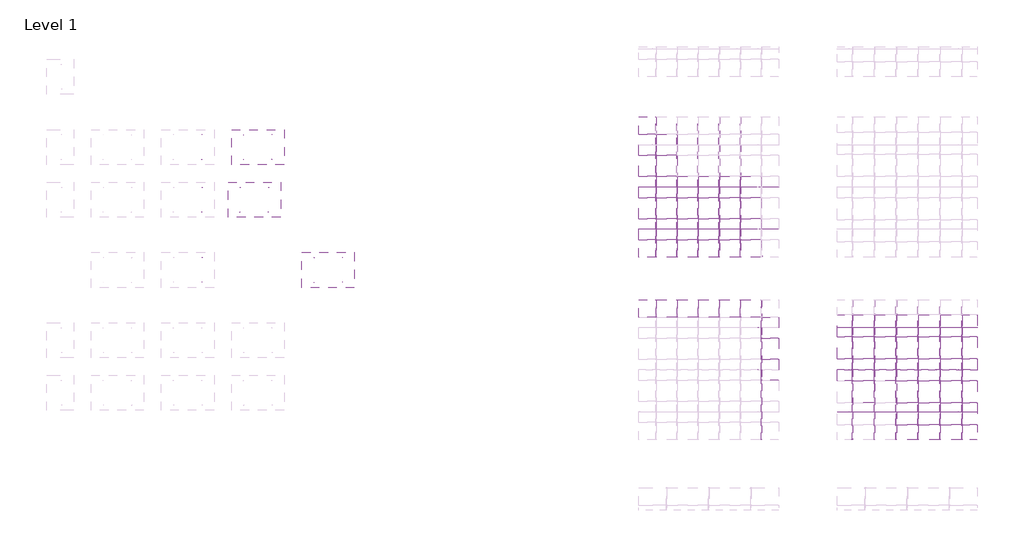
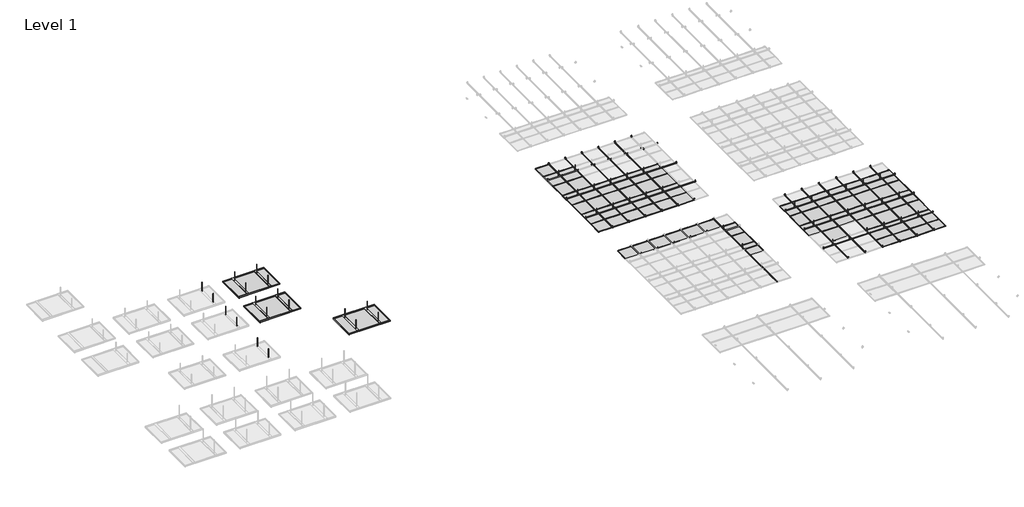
# One storey, part 21 of 32: 141 proxies.
"""IFC4 building model written with IfcOpenShell, lengths in millimetres."""

from ifc_helpers import new_model, si_unit, origin, place, context, project, spatial, transform, mapped, element, save
from components import generic_models_84546a59, generic_models_ee162b96, generic_models_38625c8c, generic_models_cebb11cf, generic_models_39815823, generic_models_aa8f36d8, generic_models_26324e2b, generic_models_eb6e0cd6, generic_models_ee13603d, generic_models_0cb75665, generic_models_6d21b951, generic_models_de900850, generic_models_85b4ffa8, generic_models_e5a4eb21

model = new_model("IFC4")

# Units and contexts
model_context = context("Model", 3, world=origin())
ifc_project = project(units=[si_unit("LENGTHUNIT", "METRE", prefix="MILLI")], contexts=[model_context])

# Site, building, storey
site = spatial("IfcSite", under=ifc_project)
building = spatial("IfcBuilding", under=site)
storey = spatial("IfcBuildingStorey", under=building, Name="Level 1", Elevation=0.0)

# Proxies
placement = place(None, origin())
generic_models_shape = generic_models_84546a59(model_context)
element("IfcBuildingElementProxy", 1, Name="durlum_threaded_rod_M6 : durlum_threaded_rod_M6", ObjectType="durlum_threaded_rod_M6 : durlum_threaded_rod_M6", at=placement, inside=storey, context=model_context, shape_type="MappedRepresentation", body=[
    mapped(generic_models_shape, transform((-15984.1736977, 15716.936751, 3835.0), x_axis=(1.0, 0.0, 0.0), y_axis=(0.0, 1.0, 0.0), z_axis=(0.0, 0.0, 1.0))),
])
element("IfcBuildingElementProxy", 2, Name="durlum_threaded_rod_M6 : durlum_threaded_rod_M6", ObjectType="durlum_threaded_rod_M6 : durlum_threaded_rod_M6", at=placement, inside=storey, context=model_context, shape_type="MappedRepresentation", body=[
    mapped(generic_models_shape, transform((-17784.1736977, 18522.4548964, 3835.0), x_axis=(1.0, 0.0, 0.0), y_axis=(0.0, 1.0, 0.0), z_axis=(0.0, 0.0, 1.0))),
])
element("IfcBuildingElementProxy", 3, Name="durlum_threaded_rod_M6 : durlum_threaded_rod_M6", ObjectType="durlum_threaded_rod_M6 : durlum_threaded_rod_M6", at=placement, inside=storey, context=model_context, shape_type="MappedRepresentation", body=[
    mapped(generic_models_shape, transform((-18984.1736977, 18522.4548964, 3835.0), x_axis=(1.0, 0.0, 0.0), y_axis=(0.0, 1.0, 0.0), z_axis=(0.0, 0.0, 1.0))),
])
element("IfcBuildingElementProxy", 4, Name="durlum_threaded_rod_M6 : durlum_threaded_rod_M6", ObjectType="durlum_threaded_rod_M6 : durlum_threaded_rod_M6", at=placement, inside=storey, context=model_context, shape_type="MappedRepresentation", body=[
    mapped(generic_models_shape, transform((-16584.1736977, 18522.4548964, 3835.0), x_axis=(1.0, 0.0, 0.0), y_axis=(0.0, 1.0, 0.0), z_axis=(0.0, 0.0, 1.0))),
])
element("IfcBuildingElementProxy", 5, Name="durlum_threaded_rod_M6 : durlum_threaded_rod_M6", ObjectType="durlum_threaded_rod_M6 : durlum_threaded_rod_M6", at=placement, inside=storey, context=model_context, shape_type="MappedRepresentation", body=[
    mapped(generic_models_shape, transform((-17184.1736977, 18522.4548964, 3835.0), x_axis=(1.0, 0.0, 0.0), y_axis=(0.0, 1.0, 0.0), z_axis=(0.0, 0.0, 1.0))),
])
element("IfcBuildingElementProxy", 6, Name="durlum_threaded_rod_M6 : durlum_threaded_rod_M6", ObjectType="durlum_threaded_rod_M6 : durlum_threaded_rod_M6", at=placement, inside=storey, context=model_context, shape_type="MappedRepresentation", body=[
    mapped(generic_models_shape, transform((-18984.1736977, 20922.4548964, 3835.0), x_axis=(1.0, 0.0, 0.0), y_axis=(0.0, 1.0, 0.0), z_axis=(0.0, 0.0, 1.0))),
])
element("IfcBuildingElementProxy", 7, Name="durlum_threaded_rod_M6 : durlum_threaded_rod_M6", ObjectType="durlum_threaded_rod_M6 : durlum_threaded_rod_M6", at=placement, inside=storey, context=model_context, shape_type="MappedRepresentation", body=[
    mapped(generic_models_shape, transform((-18384.1736977, 20922.4548964, 3835.0), x_axis=(1.0, 0.0, 0.0), y_axis=(0.0, 1.0, 0.0), z_axis=(0.0, 0.0, 1.0))),
])
element("IfcBuildingElementProxy", 8, Name="durlum_threaded_rod_M6 : durlum_threaded_rod_M6", ObjectType="durlum_threaded_rod_M6 : durlum_threaded_rod_M6", at=placement, inside=storey, context=model_context, shape_type="MappedRepresentation", body=[
    mapped(generic_models_shape, transform((-18384.1736977, 18522.4548964, 3835.0), x_axis=(1.0, 0.0, 0.0), y_axis=(0.0, 1.0, 0.0), z_axis=(0.0, 0.0, 1.0))),
])
element("IfcBuildingElementProxy", 9, Name="durlum_threaded_rod_M6 : durlum_threaded_rod_M6", ObjectType="durlum_threaded_rod_M6 : durlum_threaded_rod_M6", at=placement, inside=storey, context=model_context, shape_type="MappedRepresentation", body=[
    mapped(generic_models_shape, transform((-18384.1736977, 19722.4548964, 3835.0), x_axis=(1.0, 0.0, 0.0), y_axis=(0.0, 1.0, 0.0), z_axis=(0.0, 0.0, 1.0))),
])
element("IfcBuildingElementProxy", 10, Name="durlum_threaded_rod_M6 : durlum_threaded_rod_M6", ObjectType="durlum_threaded_rod_M6 : durlum_threaded_rod_M6", at=placement, inside=storey, context=model_context, shape_type="MappedRepresentation", body=[
    mapped(generic_models_shape, transform((-17784.1736977, 19722.4548964, 3835.0), x_axis=(1.0, 0.0, 0.0), y_axis=(0.0, 1.0, 0.0), z_axis=(0.0, 0.0, 1.0))),
])
element("IfcBuildingElementProxy", 11, Name="durlum_threaded_rod_M6 : durlum_threaded_rod_M6", ObjectType="durlum_threaded_rod_M6 : durlum_threaded_rod_M6", at=placement, inside=storey, context=model_context, shape_type="MappedRepresentation", body=[
    mapped(generic_models_shape, transform((-18984.1736977, 19722.4548964, 3835.0), x_axis=(1.0, 0.0, 0.0), y_axis=(0.0, 1.0, 0.0), z_axis=(0.0, 0.0, 1.0))),
])
element("IfcBuildingElementProxy", 12, Name="durlum_threaded_rod_M6 : durlum_threaded_rod_M6", ObjectType="durlum_threaded_rod_M6 : durlum_threaded_rod_M6", at=placement, inside=storey, context=model_context, shape_type="MappedRepresentation", body=[
    mapped(generic_models_shape, transform((-16584.1736977, 19722.4548964, 3835.0), x_axis=(1.0, 0.0, 0.0), y_axis=(0.0, 1.0, 0.0), z_axis=(0.0, 0.0, 1.0))),
])
element("IfcBuildingElementProxy", 13, Name="durlum_threaded_rod_M6 : durlum_threaded_rod_M6", ObjectType="durlum_threaded_rod_M6 : durlum_threaded_rod_M6", at=placement, inside=storey, context=model_context, shape_type="MappedRepresentation", body=[
    mapped(generic_models_shape, transform((-17184.1736977, 19722.4548964, 3835.0), x_axis=(1.0, 0.0, 0.0), y_axis=(0.0, 1.0, 0.0), z_axis=(0.0, 0.0, 1.0))),
])
element("IfcBuildingElementProxy", 14, Name="durlum_threaded_rod_M6 : durlum_threaded_rod_M6", ObjectType="durlum_threaded_rod_M6 : durlum_threaded_rod_M6", at=placement, inside=storey, context=model_context, shape_type="MappedRepresentation", body=[
    mapped(generic_models_shape, transform((-10267.5747393, 13316.936751, 3835.0), x_axis=(1.0, 0.0, 0.0), y_axis=(0.0, 1.0, 0.0), z_axis=(0.0, 0.0, 1.0))),
])
element("IfcBuildingElementProxy", 15, Name="durlum_threaded_rod_M6 : durlum_threaded_rod_M6", ObjectType="durlum_threaded_rod_M6 : durlum_threaded_rod_M6", at=placement, inside=storey, context=model_context, shape_type="MappedRepresentation", body=[
    mapped(generic_models_shape, transform((-10892.5747393, 13316.936751, 3835.0), x_axis=(1.0, 0.0, 0.0), y_axis=(0.0, 1.0, 0.0), z_axis=(0.0, 0.0, 1.0))),
])
element("IfcBuildingElementProxy", 16, Name="durlum_threaded_rod_M6 : durlum_threaded_rod_M6", ObjectType="durlum_threaded_rod_M6 : durlum_threaded_rod_M6", at=placement, inside=storey, context=model_context, shape_type="MappedRepresentation", body=[
    mapped(generic_models_shape, transform((-11517.5747393, 13316.936751, 3835.0), x_axis=(1.0, 0.0, 0.0), y_axis=(0.0, 1.0, 0.0), z_axis=(0.0, 0.0, 1.0))),
])
element("IfcBuildingElementProxy", 17, Name="durlum_threaded_rod_M6 : durlum_threaded_rod_M6", ObjectType="durlum_threaded_rod_M6 : durlum_threaded_rod_M6", at=placement, inside=storey, context=model_context, shape_type="MappedRepresentation", body=[
    mapped(generic_models_shape, transform((-10267.5747393, 15716.936751, 3835.0), x_axis=(1.0, 0.0, 0.0), y_axis=(0.0, 1.0, 0.0), z_axis=(0.0, 0.0, 1.0))),
])
element("IfcBuildingElementProxy", 18, Name="durlum_threaded_rod_M6 : durlum_threaded_rod_M6", ObjectType="durlum_threaded_rod_M6 : durlum_threaded_rod_M6", at=placement, inside=storey, context=model_context, shape_type="MappedRepresentation", body=[
    mapped(generic_models_shape, transform((-13392.5747393, 15716.936751, 3835.0), x_axis=(1.0, 0.0, 0.0), y_axis=(0.0, 1.0, 0.0), z_axis=(0.0, 0.0, 1.0))),
])
element("IfcBuildingElementProxy", 19, Name="durlum_threaded_rod_M6 : durlum_threaded_rod_M6", ObjectType="durlum_threaded_rod_M6 : durlum_threaded_rod_M6", at=placement, inside=storey, context=model_context, shape_type="MappedRepresentation", body=[
    mapped(generic_models_shape, transform((-10892.5747393, 15716.936751, 3835.0), x_axis=(1.0, 0.0, 0.0), y_axis=(0.0, 1.0, 0.0), z_axis=(0.0, 0.0, 1.0))),
])
element("IfcBuildingElementProxy", 20, Name="durlum_threaded_rod_M6 : durlum_threaded_rod_M6", ObjectType="durlum_threaded_rod_M6 : durlum_threaded_rod_M6", at=placement, inside=storey, context=model_context, shape_type="MappedRepresentation", body=[
    mapped(generic_models_shape, transform((-11517.5747393, 15716.936751, 3835.0), x_axis=(1.0, 0.0, 0.0), y_axis=(0.0, 1.0, 0.0), z_axis=(0.0, 0.0, 1.0))),
])
element("IfcBuildingElementProxy", 21, Name="durlum_threaded_rod_M6 : durlum_threaded_rod_M6", ObjectType="durlum_threaded_rod_M6 : durlum_threaded_rod_M6", at=placement, inside=storey, context=model_context, shape_type="MappedRepresentation", body=[
    mapped(generic_models_shape, transform((-15984.1736977, 14516.936751, 3835.0), x_axis=(1.0, 0.0, 0.0), y_axis=(0.0, 1.0, 0.0), z_axis=(0.0, 0.0, 1.0))),
])
element("IfcBuildingElementProxy", 22, Name="durlum_threaded_rod_M6 : durlum_threaded_rod_M6", ObjectType="durlum_threaded_rod_M6 : durlum_threaded_rod_M6", at=placement, inside=storey, context=model_context, shape_type="MappedRepresentation", body=[
    mapped(generic_models_shape, transform((-12142.5747393, 15716.936751, 3835.0), x_axis=(1.0, 0.0, 0.0), y_axis=(0.0, 1.0, 0.0), z_axis=(0.0, 0.0, 1.0))),
])
element("IfcBuildingElementProxy", 23, Name="durlum_threaded_rod_M6 : durlum_threaded_rod_M6", ObjectType="durlum_threaded_rod_M6 : durlum_threaded_rod_M6", at=placement, inside=storey, context=model_context, shape_type="MappedRepresentation", body=[
    mapped(generic_models_shape, transform((-12767.5747393, 15716.936751, 3835.0), x_axis=(1.0, 0.0, 0.0), y_axis=(0.0, 1.0, 0.0), z_axis=(0.0, 0.0, 1.0))),
])
element("IfcBuildingElementProxy", 24, Name="durlum_threaded_rod_M6 : durlum_threaded_rod_M6", ObjectType="durlum_threaded_rod_M6 : durlum_threaded_rod_M6", at=placement, inside=storey, context=model_context, shape_type="MappedRepresentation", body=[
    mapped(generic_models_shape, transform((-12142.5747393, 14516.936751, 3835.0), x_axis=(1.0, 0.0, 0.0), y_axis=(0.0, 1.0, 0.0), z_axis=(0.0, 0.0, 1.0))),
])
element("IfcBuildingElementProxy", 25, Name="durlum_threaded_rod_M6 : durlum_threaded_rod_M6", ObjectType="durlum_threaded_rod_M6 : durlum_threaded_rod_M6", at=placement, inside=storey, context=model_context, shape_type="MappedRepresentation", body=[
    mapped(generic_models_shape, transform((-12767.5747393, 14516.936751, 3835.0), x_axis=(1.0, 0.0, 0.0), y_axis=(0.0, 1.0, 0.0), z_axis=(0.0, 0.0, 1.0))),
])
element("IfcBuildingElementProxy", 26, Name="durlum_threaded_rod_M6 : durlum_threaded_rod_M6", ObjectType="durlum_threaded_rod_M6 : durlum_threaded_rod_M6", at=placement, inside=storey, context=model_context, shape_type="MappedRepresentation", body=[
    mapped(generic_models_shape, transform((-10267.5747393, 14516.936751, 3835.0), x_axis=(1.0, 0.0, 0.0), y_axis=(0.0, 1.0, 0.0), z_axis=(0.0, 0.0, 1.0))),
])
element("IfcBuildingElementProxy", 27, Name="durlum_threaded_rod_M6 : durlum_threaded_rod_M6", ObjectType="durlum_threaded_rod_M6 : durlum_threaded_rod_M6", at=placement, inside=storey, context=model_context, shape_type="MappedRepresentation", body=[
    mapped(generic_models_shape, transform((-13392.5747393, 14516.936751, 3835.0), x_axis=(1.0, 0.0, 0.0), y_axis=(0.0, 1.0, 0.0), z_axis=(0.0, 0.0, 1.0))),
])
element("IfcBuildingElementProxy", 28, Name="durlum_threaded_rod_M6 : durlum_threaded_rod_M6", ObjectType="durlum_threaded_rod_M6 : durlum_threaded_rod_M6", at=placement, inside=storey, context=model_context, shape_type="MappedRepresentation", body=[
    mapped(generic_models_shape, transform((-10892.5747393, 14516.936751, 3835.0), x_axis=(1.0, 0.0, 0.0), y_axis=(0.0, 1.0, 0.0), z_axis=(0.0, 0.0, 1.0))),
])
element("IfcBuildingElementProxy", 29, Name="durlum_threaded_rod_M6 : durlum_threaded_rod_M6", ObjectType="durlum_threaded_rod_M6 : durlum_threaded_rod_M6", at=placement, inside=storey, context=model_context, shape_type="MappedRepresentation", body=[
    mapped(generic_models_shape, transform((-11517.5747393, 14516.936751, 3835.0), x_axis=(1.0, 0.0, 0.0), y_axis=(0.0, 1.0, 0.0), z_axis=(0.0, 0.0, 1.0))),
])
generic_models_2_shape = generic_models_ee162b96(model_context)
element("IfcBuildingElementProxy", 30, Name="durlum_threaded_rod_M6 : durlum_threaded_rod_M6", ObjectType="durlum_threaded_rod_M6 : durlum_threaded_rod_M6", at=placement, inside=storey, context=model_context, shape_type="MappedRepresentation", body=[
    mapped(generic_models_2_shape, transform((-31821.531136, 20508.7392516, 3672.1013669), x_axis=(0.0, -1.0, 0.0), y_axis=(1.0, 0.0, 0.0), z_axis=(0.0, 0.0, 1.0))),
])
element("IfcBuildingElementProxy", 31, Name="durlum_threaded_rod_M6 : durlum_threaded_rod_M6", ObjectType="durlum_threaded_rod_M6 : durlum_threaded_rod_M6", at=placement, inside=storey, context=model_context, shape_type="MappedRepresentation", body=[
    mapped(generic_models_2_shape, transform((-31821.531136, 21208.7392516, 3672.1013669), x_axis=(0.0, -1.0, 0.0), y_axis=(1.0, 0.0, 0.0), z_axis=(0.0, 0.0, 1.0))),
])
element("IfcBuildingElementProxy", 32, Name="durlum_threaded_rod_M6 : durlum_threaded_rod_M6", ObjectType="durlum_threaded_rod_M6 : durlum_threaded_rod_M6", at=placement, inside=storey, context=model_context, shape_type="MappedRepresentation", body=[
    mapped(generic_models_2_shape, transform((-29821.531136, 20508.7392516, 3672.1013669), x_axis=(0.0, -1.0, 0.0), y_axis=(1.0, 0.0, 0.0), z_axis=(0.0, 0.0, 1.0))),
])
element("IfcBuildingElementProxy", 33, Name="durlum_threaded_rod_M6 : durlum_threaded_rod_M6", ObjectType="durlum_threaded_rod_M6 : durlum_threaded_rod_M6", at=placement, inside=storey, context=model_context, shape_type="MappedRepresentation", body=[
    mapped(generic_models_2_shape, transform((-29821.531136, 21208.7392516, 3672.1013669), x_axis=(0.0, -1.0, 0.0), y_axis=(1.0, 0.0, 0.0), z_axis=(0.0, 0.0, 1.0))),
])
element("IfcBuildingElementProxy", 34, Name="durlum_threaded_rod_M6 : durlum_threaded_rod_M6", ObjectType="durlum_threaded_rod_M6 : durlum_threaded_rod_M6", at=placement, inside=storey, context=model_context, shape_type="MappedRepresentation", body=[
    mapped(generic_models_2_shape, transform((-30631.531136, 20508.7392516, 3672.1013669), x_axis=(0.0, -1.0, 0.0), y_axis=(1.0, 0.0, 0.0), z_axis=(0.0, 0.0, 1.0))),
])
element("IfcBuildingElementProxy", 35, Name="durlum_threaded_rod_M6 : durlum_threaded_rod_M6", ObjectType="durlum_threaded_rod_M6 : durlum_threaded_rod_M6", at=placement, inside=storey, context=model_context, shape_type="MappedRepresentation", body=[
    mapped(generic_models_2_shape, transform((-30631.531136, 21208.7392516, 3672.1013669), x_axis=(0.0, -1.0, 0.0), y_axis=(1.0, 0.0, 0.0), z_axis=(0.0, 0.0, 1.0))),
])
element("IfcBuildingElementProxy", 36, Name="durlum_threaded_rod_M6 : durlum_threaded_rod_M6", ObjectType="durlum_threaded_rod_M6 : durlum_threaded_rod_M6", at=placement, inside=storey, context=model_context, shape_type="MappedRepresentation", body=[
    mapped(generic_models_2_shape, transform((-31821.531136, 19008.7392516, 3672.1013669), x_axis=(0.0, -1.0, 0.0), y_axis=(1.0, 0.0, 0.0), z_axis=(0.0, 0.0, 1.0))),
])
element("IfcBuildingElementProxy", 37, Name="durlum_threaded_rod_M6 : durlum_threaded_rod_M6", ObjectType="durlum_threaded_rod_M6 : durlum_threaded_rod_M6", at=placement, inside=storey, context=model_context, shape_type="MappedRepresentation", body=[
    mapped(generic_models_2_shape, transform((-31821.531136, 19708.7392516, 3672.1013669), x_axis=(0.0, -1.0, 0.0), y_axis=(1.0, 0.0, 0.0), z_axis=(0.0, 0.0, 1.0))),
])
element("IfcBuildingElementProxy", 38, Name="durlum_threaded_rod_M6 : durlum_threaded_rod_M6", ObjectType="durlum_threaded_rod_M6 : durlum_threaded_rod_M6", at=placement, inside=storey, context=model_context, shape_type="MappedRepresentation", body=[
    mapped(generic_models_2_shape, transform((-29921.531136, 19008.7392516, 3672.1013669), x_axis=(0.0, -1.0, 0.0), y_axis=(1.0, 0.0, 0.0), z_axis=(0.0, 0.0, 1.0))),
])
element("IfcBuildingElementProxy", 39, Name="durlum_threaded_rod_M6 : durlum_threaded_rod_M6", ObjectType="durlum_threaded_rod_M6 : durlum_threaded_rod_M6", at=placement, inside=storey, context=model_context, shape_type="MappedRepresentation", body=[
    mapped(generic_models_2_shape, transform((-29921.531136, 19708.7392516, 3672.1013669), x_axis=(0.0, -1.0, 0.0), y_axis=(1.0, 0.0, 0.0), z_axis=(0.0, 0.0, 1.0))),
])
element("IfcBuildingElementProxy", 40, Name="durlum_threaded_rod_M6 : durlum_threaded_rod_M6", ObjectType="durlum_threaded_rod_M6 : durlum_threaded_rod_M6", at=placement, inside=storey, context=model_context, shape_type="MappedRepresentation", body=[
    mapped(generic_models_2_shape, transform((-30731.531136, 19008.7392516, 3672.1013669), x_axis=(0.0, -1.0, 0.0), y_axis=(1.0, 0.0, 0.0), z_axis=(0.0, 0.0, 1.0))),
])
element("IfcBuildingElementProxy", 41, Name="durlum_threaded_rod_M6 : durlum_threaded_rod_M6", ObjectType="durlum_threaded_rod_M6 : durlum_threaded_rod_M6", at=placement, inside=storey, context=model_context, shape_type="MappedRepresentation", body=[
    mapped(generic_models_2_shape, transform((-30731.531136, 19708.7392516, 3672.1013669), x_axis=(0.0, -1.0, 0.0), y_axis=(1.0, 0.0, 0.0), z_axis=(0.0, 0.0, 1.0))),
])
element("IfcBuildingElementProxy", 42, Name="durlum_threaded_rod_M6 : durlum_threaded_rod_M6", ObjectType="durlum_threaded_rod_M6 : durlum_threaded_rod_M6", at=placement, inside=storey, context=model_context, shape_type="MappedRepresentation", body=[
    mapped(generic_models_2_shape, transform((-27821.531136, 17008.7392516, 3672.1013669), x_axis=(0.0, -1.0, 0.0), y_axis=(1.0, 0.0, 0.0), z_axis=(0.0, 0.0, 1.0))),
])
element("IfcBuildingElementProxy", 43, Name="durlum_threaded_rod_M6 : durlum_threaded_rod_M6", ObjectType="durlum_threaded_rod_M6 : durlum_threaded_rod_M6", at=placement, inside=storey, context=model_context, shape_type="MappedRepresentation", body=[
    mapped(generic_models_2_shape, transform((-27821.531136, 17708.7392516, 3672.1013669), x_axis=(0.0, -1.0, 0.0), y_axis=(1.0, 0.0, 0.0), z_axis=(0.0, 0.0, 1.0))),
])
element("IfcBuildingElementProxy", 44, Name="durlum_threaded_rod_M6 : durlum_threaded_rod_M6", ObjectType="durlum_threaded_rod_M6 : durlum_threaded_rod_M6", at=placement, inside=storey, context=model_context, shape_type="MappedRepresentation", body=[
    mapped(generic_models_2_shape, transform((-28631.531136, 17008.7392516, 3672.1013669), x_axis=(0.0, -1.0, 0.0), y_axis=(1.0, 0.0, 0.0), z_axis=(0.0, 0.0, 1.0))),
])
element("IfcBuildingElementProxy", 45, Name="durlum_threaded_rod_M6 : durlum_threaded_rod_M6", ObjectType="durlum_threaded_rod_M6 : durlum_threaded_rod_M6", at=placement, inside=storey, context=model_context, shape_type="MappedRepresentation", body=[
    mapped(generic_models_2_shape, transform((-28631.531136, 17708.7392516, 3672.1013669), x_axis=(0.0, -1.0, 0.0), y_axis=(1.0, 0.0, 0.0), z_axis=(0.0, 0.0, 1.0))),
])
element("IfcBuildingElementProxy", 46, Name="durlum_threaded_rod_M6 : durlum_threaded_rod_M6", ObjectType="durlum_threaded_rod_M6 : durlum_threaded_rod_M6", at=placement, inside=storey, context=model_context, shape_type="MappedRepresentation", body=[
    mapped(generic_models_2_shape, transform((-31821.531136, 17008.7392516, 3672.1013669), x_axis=(0.0, -1.0, 0.0), y_axis=(1.0, 0.0, 0.0), z_axis=(0.0, 0.0, 1.0))),
])
element("IfcBuildingElementProxy", 47, Name="durlum_threaded_rod_M6 : durlum_threaded_rod_M6", ObjectType="durlum_threaded_rod_M6 : durlum_threaded_rod_M6", at=placement, inside=storey, context=model_context, shape_type="MappedRepresentation", body=[
    mapped(generic_models_2_shape, transform((-31821.531136, 17708.7392516, 3672.1013669), x_axis=(0.0, -1.0, 0.0), y_axis=(1.0, 0.0, 0.0), z_axis=(0.0, 0.0, 1.0))),
])
generic_models_3_shape = generic_models_38625c8c(model_context)
element("IfcBuildingElementProxy", 48, Name="durlum_U1000 : durlum_U1000", ObjectType="durlum_U1000 : durlum_U1000", at=placement, inside=storey, context=model_context, shape_type="MappedRepresentation", body=[
    mapped(generic_models_3_shape, transform((-15884.1736977, 14516.936751, 3712.8202962), x_axis=(0.0, 1.0, 0.0), y_axis=(-1.0, 0.0, 0.0), z_axis=(0.0, 0.0, 1.0))),
])
element("IfcBuildingElementProxy", 49, Name="durlum_U1000 : durlum_U1000", ObjectType="durlum_U1000 : durlum_U1000", at=placement, inside=storey, context=model_context, shape_type="MappedRepresentation", body=[
    mapped(generic_models_3_shape, transform((-17684.1736977, 19722.4548964, 3712.8202962), x_axis=(0.0, 1.0, 0.0), y_axis=(-1.0, 0.0, 0.0), z_axis=(0.0, 0.0, 1.0))),
])
element("IfcBuildingElementProxy", 50, Name="durlum_U1000 : durlum_U1000", ObjectType="durlum_U1000 : durlum_U1000", at=placement, inside=storey, context=model_context, shape_type="MappedRepresentation", body=[
    mapped(generic_models_3_shape, transform((-17384.1736977, 18522.4548964, 3754.5054063), x_axis=(1.0, 0.0, 0.0), y_axis=(0.0, 1.0, 0.0), z_axis=(0.0, 0.0, 1.0))),
])
element("IfcBuildingElementProxy", 51, Name="durlum_U1000 : durlum_U1000", ObjectType="durlum_U1000 : durlum_U1000", at=placement, inside=storey, context=model_context, shape_type="MappedRepresentation", body=[
    mapped(generic_models_3_shape, transform((-17084.1736977, 19722.4548964, 3712.8202962), x_axis=(0.0, 1.0, 0.0), y_axis=(-1.0, 0.0, 0.0), z_axis=(0.0, 0.0, 1.0))),
])
element("IfcBuildingElementProxy", 52, Name="durlum_U1000 : durlum_U1000", ObjectType="durlum_U1000 : durlum_U1000", at=placement, inside=storey, context=model_context, shape_type="MappedRepresentation", body=[
    mapped(generic_models_3_shape, transform((-16484.1736977, 19722.4548964, 3712.8202962), x_axis=(0.0, 1.0, 0.0), y_axis=(-1.0, 0.0, 0.0), z_axis=(0.0, 0.0, 1.0))),
])
element("IfcBuildingElementProxy", 53, Name="durlum_U1000 : durlum_U1000", ObjectType="durlum_U1000 : durlum_U1000", at=placement, inside=storey, context=model_context, shape_type="MappedRepresentation", body=[
    mapped(generic_models_3_shape, transform((-18884.1736977, 19722.4548964, 3712.8202962), x_axis=(0.0, 1.0, 0.0), y_axis=(-1.0, 0.0, 0.0), z_axis=(0.0, 0.0, 1.0))),
])
element("IfcBuildingElementProxy", 54, Name="durlum_U1000 : durlum_U1000", ObjectType="durlum_U1000 : durlum_U1000", at=placement, inside=storey, context=model_context, shape_type="MappedRepresentation", body=[
    mapped(generic_models_3_shape, transform((-17384.1736977, 19722.4548964, 3754.5054063), x_axis=(1.0, 0.0, 0.0), y_axis=(0.0, 1.0, 0.0), z_axis=(0.0, 0.0, 1.0))),
])
element("IfcBuildingElementProxy", 55, Name="durlum_U1000 : durlum_U1000", ObjectType="durlum_U1000 : durlum_U1000", at=placement, inside=storey, context=model_context, shape_type="MappedRepresentation", body=[
    mapped(generic_models_3_shape, transform((-18284.1736977, 19722.4548964, 3712.8202962), x_axis=(0.0, 1.0, 0.0), y_axis=(-1.0, 0.0, 0.0), z_axis=(0.0, 0.0, 1.0))),
])
element("IfcBuildingElementProxy", 56, Name="durlum_U1000 : durlum_U1000", ObjectType="durlum_U1000 : durlum_U1000", at=placement, inside=storey, context=model_context, shape_type="MappedRepresentation", body=[
    mapped(generic_models_3_shape, transform((-11730.0747393, 13316.936751, 3754.5054063), x_axis=(1.0, 0.0, 0.0), y_axis=(0.0, 1.0, 0.0), z_axis=(0.0, 0.0, 1.0))),
])
element("IfcBuildingElementProxy", 57, Name="durlum_U1000 : durlum_U1000", ObjectType="durlum_U1000 : durlum_U1000", at=placement, inside=storey, context=model_context, shape_type="MappedRepresentation", body=[
    mapped(generic_models_3_shape, transform((-11730.0747393, 15716.936751, 3754.5054063), x_axis=(1.0, 0.0, 0.0), y_axis=(0.0, 1.0, 0.0), z_axis=(0.0, 0.0, 1.0))),
])
element("IfcBuildingElementProxy", 58, Name="durlum_U1000 : durlum_U1000", ObjectType="durlum_U1000 : durlum_U1000", at=placement, inside=storey, context=model_context, shape_type="MappedRepresentation", body=[
    mapped(generic_models_3_shape, transform((-11417.5747393, 14516.936751, 3712.8202962), x_axis=(0.0, 1.0, 0.0), y_axis=(-1.0, 0.0, 0.0), z_axis=(0.0, 0.0, 1.0))),
])
element("IfcBuildingElementProxy", 59, Name="durlum_U1000 : durlum_U1000", ObjectType="durlum_U1000 : durlum_U1000", at=placement, inside=storey, context=model_context, shape_type="MappedRepresentation", body=[
    mapped(generic_models_3_shape, transform((-10792.5747393, 14516.936751, 3712.8202962), x_axis=(0.0, 1.0, 0.0), y_axis=(-1.0, 0.0, 0.0), z_axis=(0.0, 0.0, 1.0))),
])
element("IfcBuildingElementProxy", 60, Name="durlum_U1000 : durlum_U1000", ObjectType="durlum_U1000 : durlum_U1000", at=placement, inside=storey, context=model_context, shape_type="MappedRepresentation", body=[
    mapped(generic_models_3_shape, transform((-13292.5747393, 14516.936751, 3712.8202962), x_axis=(0.0, 1.0, 0.0), y_axis=(-1.0, 0.0, 0.0), z_axis=(0.0, 0.0, 1.0))),
])
element("IfcBuildingElementProxy", 61, Name="durlum_U1000 : durlum_U1000", ObjectType="durlum_U1000 : durlum_U1000", at=placement, inside=storey, context=model_context, shape_type="MappedRepresentation", body=[
    mapped(generic_models_3_shape, transform((-10167.5747393, 14516.936751, 3712.8202962), x_axis=(0.0, 1.0, 0.0), y_axis=(-1.0, 0.0, 0.0), z_axis=(0.0, 0.0, 1.0))),
])
element("IfcBuildingElementProxy", 62, Name="durlum_U1000 : durlum_U1000", ObjectType="durlum_U1000 : durlum_U1000", at=placement, inside=storey, context=model_context, shape_type="MappedRepresentation", body=[
    mapped(generic_models_3_shape, transform((-11730.0747393, 14516.936751, 3754.5054063), x_axis=(1.0, 0.0, 0.0), y_axis=(0.0, 1.0, 0.0), z_axis=(0.0, 0.0, 1.0))),
])
element("IfcBuildingElementProxy", 63, Name="durlum_U1000 : durlum_U1000", ObjectType="durlum_U1000 : durlum_U1000", at=placement, inside=storey, context=model_context, shape_type="MappedRepresentation", body=[
    mapped(generic_models_3_shape, transform((-12667.5747393, 14516.936751, 3712.8202962), x_axis=(0.0, 1.0, 0.0), y_axis=(-1.0, 0.0, 0.0), z_axis=(0.0, 0.0, 1.0))),
])
element("IfcBuildingElementProxy", 64, Name="durlum_U1000 : durlum_U1000", ObjectType="durlum_U1000 : durlum_U1000", at=placement, inside=storey, context=model_context, shape_type="MappedRepresentation", body=[
    mapped(generic_models_3_shape, transform((-12042.5747393, 14516.936751, 3712.8202962), x_axis=(0.0, 1.0, 0.0), y_axis=(-1.0, 0.0, 0.0), z_axis=(0.0, 0.0, 1.0))),
])
generic_models_4_shape = generic_models_cebb11cf(model_context)
element("IfcBuildingElementProxy", 65, Name="durlum_S1_panel : durlum_S1_panel", ObjectType="durlum_S1_panel : durlum_S1_panel", at=placement, inside=storey, context=model_context, shape_type="MappedRepresentation", body=[
    mapped(generic_models_4_shape, transform((-17384.1736977, 19722.4548964, 3700.0), x_axis=(1.0, 0.0, 0.0), y_axis=(0.0, 1.0, 0.0), z_axis=(0.0, 0.0, 1.0))),
])
element("IfcBuildingElementProxy", 66, Name="durlum_S1_panel : durlum_S1_panel", ObjectType="durlum_S1_panel : durlum_S1_panel", at=placement, inside=storey, context=model_context, shape_type="MappedRepresentation", body=[
    mapped(generic_models_4_shape, transform((-17984.1736977, 19722.4548964, 3700.0), x_axis=(1.0, 0.0, 0.0), y_axis=(0.0, 1.0, 0.0), z_axis=(0.0, 0.0, 1.0))),
])
element("IfcBuildingElementProxy", 67, Name="durlum_S1_panel : durlum_S1_panel", ObjectType="durlum_S1_panel : durlum_S1_panel", at=placement, inside=storey, context=model_context, shape_type="MappedRepresentation", body=[
    mapped(generic_models_4_shape, transform((-18584.1736977, 19722.4548964, 3700.0), x_axis=(1.0, 0.0, 0.0), y_axis=(0.0, 1.0, 0.0), z_axis=(0.0, 0.0, 1.0))),
])
element("IfcBuildingElementProxy", 68, Name="durlum_S1_panel : durlum_S1_panel", ObjectType="durlum_S1_panel : durlum_S1_panel", at=placement, inside=storey, context=model_context, shape_type="MappedRepresentation", body=[
    mapped(generic_models_4_shape, transform((-16184.1736977, 19722.4548964, 3700.0), x_axis=(1.0, 0.0, 0.0), y_axis=(0.0, 1.0, 0.0), z_axis=(0.0, 0.0, 1.0))),
])
element("IfcBuildingElementProxy", 69, Name="durlum_S1_panel : durlum_S1_panel", ObjectType="durlum_S1_panel : durlum_S1_panel", at=placement, inside=storey, context=model_context, shape_type="MappedRepresentation", body=[
    mapped(generic_models_4_shape, transform((-17384.1736977, 18522.4548964, 3700.0), x_axis=(1.0, 0.0, 0.0), y_axis=(0.0, 1.0, 0.0), z_axis=(0.0, 0.0, 1.0))),
])
element("IfcBuildingElementProxy", 70, Name="durlum_S1_panel : durlum_S1_panel", ObjectType="durlum_S1_panel : durlum_S1_panel", at=placement, inside=storey, context=model_context, shape_type="MappedRepresentation", body=[
    mapped(generic_models_4_shape, transform((-17984.1736977, 18522.4548964, 3700.0), x_axis=(1.0, 0.0, 0.0), y_axis=(0.0, 1.0, 0.0), z_axis=(0.0, 0.0, 1.0))),
])
element("IfcBuildingElementProxy", 71, Name="durlum_S1_panel : durlum_S1_panel", ObjectType="durlum_S1_panel : durlum_S1_panel", at=placement, inside=storey, context=model_context, shape_type="MappedRepresentation", body=[
    mapped(generic_models_4_shape, transform((-18584.1736977, 20322.4548964, 3700.0), x_axis=(1.0, 0.0, 0.0), y_axis=(0.0, 1.0, 0.0), z_axis=(0.0, 0.0, 1.0))),
])
element("IfcBuildingElementProxy", 72, Name="durlum_S1_panel : durlum_S1_panel", ObjectType="durlum_S1_panel : durlum_S1_panel", at=placement, inside=storey, context=model_context, shape_type="MappedRepresentation", body=[
    mapped(generic_models_4_shape, transform((-18584.1736977, 18522.4548964, 3700.0), x_axis=(1.0, 0.0, 0.0), y_axis=(0.0, 1.0, 0.0), z_axis=(0.0, 0.0, 1.0))),
])
element("IfcBuildingElementProxy", 73, Name="durlum_S1_panel : durlum_S1_panel", ObjectType="durlum_S1_panel : durlum_S1_panel", at=placement, inside=storey, context=model_context, shape_type="MappedRepresentation", body=[
    mapped(generic_models_4_shape, transform((-16184.1736977, 18522.4548964, 3700.0), x_axis=(1.0, 0.0, 0.0), y_axis=(0.0, 1.0, 0.0), z_axis=(0.0, 0.0, 1.0))),
])
element("IfcBuildingElementProxy", 74, Name="durlum_S1_panel : durlum_S1_panel", ObjectType="durlum_S1_panel : durlum_S1_panel", at=placement, inside=storey, context=model_context, shape_type="MappedRepresentation", body=[
    mapped(generic_models_4_shape, transform((-18584.1736977, 20922.4548964, 3700.0), x_axis=(1.0, 0.0, 0.0), y_axis=(0.0, 1.0, 0.0), z_axis=(0.0, 0.0, 1.0))),
])
element("IfcBuildingElementProxy", 75, Name="durlum_S1_panel : durlum_S1_panel", ObjectType="durlum_S1_panel : durlum_S1_panel", at=placement, inside=storey, context=model_context, shape_type="MappedRepresentation", body=[
    mapped(generic_models_4_shape, transform((-16784.1736977, 18522.4548964, 3700.0), x_axis=(1.0, 0.0, 0.0), y_axis=(0.0, 1.0, 0.0), z_axis=(0.0, 0.0, 1.0))),
])
element("IfcBuildingElementProxy", 76, Name="durlum_S1_panel : durlum_S1_panel", ObjectType="durlum_S1_panel : durlum_S1_panel", at=placement, inside=storey, context=model_context, shape_type="MappedRepresentation", body=[
    mapped(generic_models_4_shape, transform((-16784.1736977, 19722.4548964, 3700.0), x_axis=(1.0, 0.0, 0.0), y_axis=(0.0, 1.0, 0.0), z_axis=(0.0, 0.0, 1.0))),
])
element("IfcBuildingElementProxy", 77, Name="durlum_S1_panel : durlum_S1_panel", ObjectType="durlum_S1_panel : durlum_S1_panel", at=placement, inside=storey, context=model_context, shape_type="MappedRepresentation", body=[
    mapped(generic_models_4_shape, transform((-16784.1736977, 19122.4548964, 3700.0), x_axis=(1.0, 0.0, 0.0), y_axis=(0.0, 1.0, 0.0), z_axis=(0.0, 0.0, 1.0))),
])
element("IfcBuildingElementProxy", 78, Name="durlum_S1_panel : durlum_S1_panel", ObjectType="durlum_S1_panel : durlum_S1_panel", at=placement, inside=storey, context=model_context, shape_type="MappedRepresentation", body=[
    mapped(generic_models_4_shape, transform((-17384.1736977, 19122.4548964, 3700.0), x_axis=(1.0, 0.0, 0.0), y_axis=(0.0, 1.0, 0.0), z_axis=(0.0, 0.0, 1.0))),
])
element("IfcBuildingElementProxy", 79, Name="durlum_S1_panel : durlum_S1_panel", ObjectType="durlum_S1_panel : durlum_S1_panel", at=placement, inside=storey, context=model_context, shape_type="MappedRepresentation", body=[
    mapped(generic_models_4_shape, transform((-17984.1736977, 19122.4548964, 3700.0), x_axis=(1.0, 0.0, 0.0), y_axis=(0.0, 1.0, 0.0), z_axis=(0.0, 0.0, 1.0))),
])
element("IfcBuildingElementProxy", 80, Name="durlum_S1_panel : durlum_S1_panel", ObjectType="durlum_S1_panel : durlum_S1_panel", at=placement, inside=storey, context=model_context, shape_type="MappedRepresentation", body=[
    mapped(generic_models_4_shape, transform((-18584.1736977, 19122.4548964, 3700.0), x_axis=(1.0, 0.0, 0.0), y_axis=(0.0, 1.0, 0.0), z_axis=(0.0, 0.0, 1.0))),
])
element("IfcBuildingElementProxy", 81, Name="durlum_S1_panel : durlum_S1_panel", ObjectType="durlum_S1_panel : durlum_S1_panel", at=placement, inside=storey, context=model_context, shape_type="MappedRepresentation", body=[
    mapped(generic_models_4_shape, transform((-16184.1736977, 19122.4548964, 3700.0), x_axis=(1.0, 0.0, 0.0), y_axis=(0.0, 1.0, 0.0), z_axis=(0.0, 0.0, 1.0))),
])
generic_models_5_shape = generic_models_39815823(model_context)
element("IfcBuildingElementProxy", 82, Name="durlum_S1_panel : durlum_S1_panel", ObjectType="durlum_S1_panel : durlum_S1_panel", at=placement, inside=storey, context=model_context, shape_type="MappedRepresentation", body=[
    mapped(generic_models_5_shape, transform((-12355.0747393, 15141.936751, 3700.0), x_axis=(1.0, 0.0, 0.0), y_axis=(0.0, 1.0, 0.0), z_axis=(0.0, 0.0, 1.0))),
])
element("IfcBuildingElementProxy", 83, Name="durlum_S1_panel : durlum_S1_panel", ObjectType="durlum_S1_panel : durlum_S1_panel", at=placement, inside=storey, context=model_context, shape_type="MappedRepresentation", body=[
    mapped(generic_models_5_shape, transform((-12355.0747393, 15766.936751, 3700.0), x_axis=(1.0, 0.0, 0.0), y_axis=(0.0, 1.0, 0.0), z_axis=(0.0, 0.0, 1.0))),
])
element("IfcBuildingElementProxy", 84, Name="durlum_S1_panel : durlum_S1_panel", ObjectType="durlum_S1_panel : durlum_S1_panel", at=placement, inside=storey, context=model_context, shape_type="MappedRepresentation", body=[
    mapped(generic_models_5_shape, transform((-12980.0747393, 15141.936751, 3700.0), x_axis=(1.0, 0.0, 0.0), y_axis=(0.0, 1.0, 0.0), z_axis=(0.0, 0.0, 1.0))),
])
element("IfcBuildingElementProxy", 85, Name="durlum_S1_panel : durlum_S1_panel", ObjectType="durlum_S1_panel : durlum_S1_panel", at=placement, inside=storey, context=model_context, shape_type="MappedRepresentation", body=[
    mapped(generic_models_5_shape, transform((-10480.0747393, 15141.936751, 3700.0), x_axis=(1.0, 0.0, 0.0), y_axis=(0.0, 1.0, 0.0), z_axis=(0.0, 0.0, 1.0))),
])
element("IfcBuildingElementProxy", 86, Name="durlum_S1_panel : durlum_S1_panel", ObjectType="durlum_S1_panel : durlum_S1_panel", at=placement, inside=storey, context=model_context, shape_type="MappedRepresentation", body=[
    mapped(generic_models_5_shape, transform((-10480.0747393, 13266.936751, 3700.0), x_axis=(1.0, 0.0, 0.0), y_axis=(0.0, 1.0, 0.0), z_axis=(0.0, 0.0, 1.0))),
])
element("IfcBuildingElementProxy", 87, Name="durlum_S1_panel : durlum_S1_panel", ObjectType="durlum_S1_panel : durlum_S1_panel", at=placement, inside=storey, context=model_context, shape_type="MappedRepresentation", body=[
    mapped(generic_models_5_shape, transform((-12980.0747393, 15766.936751, 3700.0), x_axis=(1.0, 0.0, 0.0), y_axis=(0.0, 1.0, 0.0), z_axis=(0.0, 0.0, 1.0))),
])
element("IfcBuildingElementProxy", 88, Name="durlum_S1_panel : durlum_S1_panel", ObjectType="durlum_S1_panel : durlum_S1_panel", at=placement, inside=storey, context=model_context, shape_type="MappedRepresentation", body=[
    mapped(generic_models_5_shape, transform((-10480.0747393, 15766.936751, 3700.0), x_axis=(1.0, 0.0, 0.0), y_axis=(0.0, 1.0, 0.0), z_axis=(0.0, 0.0, 1.0))),
])
element("IfcBuildingElementProxy", 89, Name="durlum_S1_panel : durlum_S1_panel", ObjectType="durlum_S1_panel : durlum_S1_panel", at=placement, inside=storey, context=model_context, shape_type="MappedRepresentation", body=[
    mapped(generic_models_5_shape, transform((-11730.0747393, 13266.936751, 3700.0), x_axis=(1.0, 0.0, 0.0), y_axis=(0.0, 1.0, 0.0), z_axis=(0.0, 0.0, 1.0))),
])
element("IfcBuildingElementProxy", 90, Name="durlum_S1_panel : durlum_S1_panel", ObjectType="durlum_S1_panel : durlum_S1_panel", at=placement, inside=storey, context=model_context, shape_type="MappedRepresentation", body=[
    mapped(generic_models_5_shape, transform((-11105.0747393, 13266.936751, 3700.0), x_axis=(1.0, 0.0, 0.0), y_axis=(0.0, 1.0, 0.0), z_axis=(0.0, 0.0, 1.0))),
])
element("IfcBuildingElementProxy", 91, Name="durlum_S1_panel : durlum_S1_panel", ObjectType="durlum_S1_panel : durlum_S1_panel", at=placement, inside=storey, context=model_context, shape_type="MappedRepresentation", body=[
    mapped(generic_models_5_shape, transform((-11730.0747393, 15766.936751, 3700.0), x_axis=(1.0, 0.0, 0.0), y_axis=(0.0, 1.0, 0.0), z_axis=(0.0, 0.0, 1.0))),
])
element("IfcBuildingElementProxy", 92, Name="durlum_S1_panel : durlum_S1_panel", ObjectType="durlum_S1_panel : durlum_S1_panel", at=placement, inside=storey, context=model_context, shape_type="MappedRepresentation", body=[
    mapped(generic_models_5_shape, transform((-11105.0747393, 15766.936751, 3700.0), x_axis=(1.0, 0.0, 0.0), y_axis=(0.0, 1.0, 0.0), z_axis=(0.0, 0.0, 1.0))),
])
element("IfcBuildingElementProxy", 93, Name="durlum_S1_panel : durlum_S1_panel", ObjectType="durlum_S1_panel : durlum_S1_panel", at=placement, inside=storey, context=model_context, shape_type="MappedRepresentation", body=[
    mapped(generic_models_5_shape, transform((-11730.0747393, 15141.936751, 3700.0), x_axis=(1.0, 0.0, 0.0), y_axis=(0.0, 1.0, 0.0), z_axis=(0.0, 0.0, 1.0))),
])
element("IfcBuildingElementProxy", 94, Name="durlum_S1_panel : durlum_S1_panel", ObjectType="durlum_S1_panel : durlum_S1_panel", at=placement, inside=storey, context=model_context, shape_type="MappedRepresentation", body=[
    mapped(generic_models_5_shape, transform((-11105.0747393, 15141.936751, 3700.0), x_axis=(1.0, 0.0, 0.0), y_axis=(0.0, 1.0, 0.0), z_axis=(0.0, 0.0, 1.0))),
])
element("IfcBuildingElementProxy", 95, Name="durlum_S1_panel : durlum_S1_panel", ObjectType="durlum_S1_panel : durlum_S1_panel", at=placement, inside=storey, context=model_context, shape_type="MappedRepresentation", body=[
    mapped(generic_models_5_shape, transform((-11730.0747393, 13891.936751, 3700.0), x_axis=(1.0, 0.0, 0.0), y_axis=(0.0, 1.0, 0.0), z_axis=(0.0, 0.0, 1.0))),
])
element("IfcBuildingElementProxy", 96, Name="durlum_S1_panel : durlum_S1_panel", ObjectType="durlum_S1_panel : durlum_S1_panel", at=placement, inside=storey, context=model_context, shape_type="MappedRepresentation", body=[
    mapped(generic_models_5_shape, transform((-11105.0747393, 13891.936751, 3700.0), x_axis=(1.0, 0.0, 0.0), y_axis=(0.0, 1.0, 0.0), z_axis=(0.0, 0.0, 1.0))),
])
element("IfcBuildingElementProxy", 97, Name="durlum_S1_panel : durlum_S1_panel", ObjectType="durlum_S1_panel : durlum_S1_panel", at=placement, inside=storey, context=model_context, shape_type="MappedRepresentation", body=[
    mapped(generic_models_5_shape, transform((-12980.0747393, 13891.936751, 3700.0), x_axis=(1.0, 0.0, 0.0), y_axis=(0.0, 1.0, 0.0), z_axis=(0.0, 0.0, 1.0))),
])
element("IfcBuildingElementProxy", 98, Name="durlum_S1_panel : durlum_S1_panel", ObjectType="durlum_S1_panel : durlum_S1_panel", at=placement, inside=storey, context=model_context, shape_type="MappedRepresentation", body=[
    mapped(generic_models_5_shape, transform((-10480.0747393, 13891.936751, 3700.0), x_axis=(1.0, 0.0, 0.0), y_axis=(0.0, 1.0, 0.0), z_axis=(0.0, 0.0, 1.0))),
])
element("IfcBuildingElementProxy", 99, Name="durlum_S1_panel : durlum_S1_panel", ObjectType="durlum_S1_panel : durlum_S1_panel", at=placement, inside=storey, context=model_context, shape_type="MappedRepresentation", body=[
    mapped(generic_models_5_shape, transform((-11730.0747393, 14516.936751, 3700.0), x_axis=(1.0, 0.0, 0.0), y_axis=(0.0, 1.0, 0.0), z_axis=(0.0, 0.0, 1.0))),
])
element("IfcBuildingElementProxy", 100, Name="durlum_S1_panel : durlum_S1_panel", ObjectType="durlum_S1_panel : durlum_S1_panel", at=placement, inside=storey, context=model_context, shape_type="MappedRepresentation", body=[
    mapped(generic_models_5_shape, transform((-11105.0747393, 14516.936751, 3700.0), x_axis=(1.0, 0.0, 0.0), y_axis=(0.0, 1.0, 0.0), z_axis=(0.0, 0.0, 1.0))),
])
element("IfcBuildingElementProxy", 101, Name="durlum_S1_panel : durlum_S1_panel", ObjectType="durlum_S1_panel : durlum_S1_panel", at=placement, inside=storey, context=model_context, shape_type="MappedRepresentation", body=[
    mapped(generic_models_5_shape, transform((-12355.0747393, 14516.936751, 3700.0), x_axis=(1.0, 0.0, 0.0), y_axis=(0.0, 1.0, 0.0), z_axis=(0.0, 0.0, 1.0))),
])
element("IfcBuildingElementProxy", 102, Name="durlum_S1_panel : durlum_S1_panel", ObjectType="durlum_S1_panel : durlum_S1_panel", at=placement, inside=storey, context=model_context, shape_type="MappedRepresentation", body=[
    mapped(generic_models_5_shape, transform((-12980.0747393, 14516.936751, 3700.0), x_axis=(1.0, 0.0, 0.0), y_axis=(0.0, 1.0, 0.0), z_axis=(0.0, 0.0, 1.0))),
])
element("IfcBuildingElementProxy", 103, Name="durlum_S1_panel : durlum_S1_panel", ObjectType="durlum_S1_panel : durlum_S1_panel", at=placement, inside=storey, context=model_context, shape_type="MappedRepresentation", body=[
    mapped(generic_models_5_shape, transform((-10480.0747393, 14516.936751, 3700.0), x_axis=(1.0, 0.0, 0.0), y_axis=(0.0, 1.0, 0.0), z_axis=(0.0, 0.0, 1.0))),
])
generic_models_6_shape = generic_models_aa8f36d8(model_context)
element("IfcBuildingElementProxy", 104, Name="durlum_S1_panel : durlum_S1_panel_wall_length_cut", ObjectType="durlum_S1_panel : durlum_S1_panel_wall_length_cut", at=placement, inside=storey, context=model_context, shape_type="MappedRepresentation", body=[
    mapped(generic_models_6_shape, transform((-13511.3247393, 15141.936751, 3700.0), x_axis=(1.0, 0.0, 0.0), y_axis=(0.0, 1.0, 0.0), z_axis=(0.0, 0.0, 1.0))),
])
element("IfcBuildingElementProxy", 105, Name="durlum_S1_panel : durlum_S1_panel_wall_length_cut", ObjectType="durlum_S1_panel : durlum_S1_panel_wall_length_cut", at=placement, inside=storey, context=model_context, shape_type="MappedRepresentation", body=[
    mapped(generic_models_6_shape, transform((-9948.8247393, 15141.936751, 3700.0), x_axis=(1.0, 0.0, 0.0), y_axis=(0.0, 1.0, 0.0), z_axis=(0.0, 0.0, 1.0))),
])
element("IfcBuildingElementProxy", 106, Name="durlum_S1_panel : durlum_S1_panel_wall_length_cut", ObjectType="durlum_S1_panel : durlum_S1_panel_wall_length_cut", at=placement, inside=storey, context=model_context, shape_type="MappedRepresentation", body=[
    mapped(generic_models_6_shape, transform((-9948.8247393, 13266.936751, 3700.0), x_axis=(1.0, 0.0, 0.0), y_axis=(0.0, 1.0, 0.0), z_axis=(0.0, 0.0, 1.0))),
])
element("IfcBuildingElementProxy", 107, Name="durlum_S1_panel : durlum_S1_panel_wall_length_cut", ObjectType="durlum_S1_panel : durlum_S1_panel_wall_length_cut", at=placement, inside=storey, context=model_context, shape_type="MappedRepresentation", body=[
    mapped(generic_models_6_shape, transform((-9948.8247393, 15766.936751, 3700.0), x_axis=(1.0, 0.0, 0.0), y_axis=(0.0, 1.0, 0.0), z_axis=(0.0, 0.0, 1.0))),
])
element("IfcBuildingElementProxy", 108, Name="durlum_S1_panel : durlum_S1_panel_wall_length_cut", ObjectType="durlum_S1_panel : durlum_S1_panel_wall_length_cut", at=placement, inside=storey, context=model_context, shape_type="MappedRepresentation", body=[
    mapped(generic_models_6_shape, transform((-13511.3247393, 15766.936751, 3700.0), x_axis=(1.0, 0.0, 0.0), y_axis=(0.0, 1.0, 0.0), z_axis=(0.0, 0.0, 1.0))),
])
element("IfcBuildingElementProxy", 109, Name="durlum_S1_panel : durlum_S1_panel_wall_length_cut", ObjectType="durlum_S1_panel : durlum_S1_panel_wall_length_cut", at=placement, inside=storey, context=model_context, shape_type="MappedRepresentation", body=[
    mapped(generic_models_6_shape, transform((-9948.8247393, 13891.936751, 3700.0), x_axis=(1.0, 0.0, 0.0), y_axis=(0.0, 1.0, 0.0), z_axis=(0.0, 0.0, 1.0))),
])
element("IfcBuildingElementProxy", 110, Name="durlum_S1_panel : durlum_S1_panel_wall_length_cut", ObjectType="durlum_S1_panel : durlum_S1_panel_wall_length_cut", at=placement, inside=storey, context=model_context, shape_type="MappedRepresentation", body=[
    mapped(generic_models_6_shape, transform((-9948.8247393, 14516.936751, 3700.0), x_axis=(1.0, 0.0, 0.0), y_axis=(0.0, 1.0, 0.0), z_axis=(0.0, 0.0, 1.0))),
])
element("IfcBuildingElementProxy", 111, Name="durlum_S1_panel : durlum_S1_panel_wall_length_cut", ObjectType="durlum_S1_panel : durlum_S1_panel_wall_length_cut", at=placement, inside=storey, context=model_context, shape_type="MappedRepresentation", body=[
    mapped(generic_models_6_shape, transform((-13511.3247393, 14516.936751, 3700.0), x_axis=(1.0, 0.0, 0.0), y_axis=(0.0, 1.0, 0.0), z_axis=(0.0, 0.0, 1.0))),
])
generic_models_7_shape = generic_models_26324e2b(model_context)
element("IfcBuildingElementProxy", 112, Name="durlum_S1_panel : durlum_S1_panel_wall_width_cut", ObjectType="durlum_S1_panel : durlum_S1_panel_wall_width_cut", at=placement, inside=storey, context=model_context, shape_type="MappedRepresentation", body=[
    mapped(generic_models_7_shape, transform((-10480.0747393, 12735.686751, 3700.0), x_axis=(1.0, 0.0, 0.0), y_axis=(0.0, 1.0, 0.0), z_axis=(0.0, 0.0, 1.0))),
])
element("IfcBuildingElementProxy", 113, Name="durlum_S1_panel : durlum_S1_panel_wall_width_cut", ObjectType="durlum_S1_panel : durlum_S1_panel_wall_width_cut", at=placement, inside=storey, context=model_context, shape_type="MappedRepresentation", body=[
    mapped(generic_models_7_shape, transform((-11105.0747393, 12735.686751, 3700.0), x_axis=(1.0, 0.0, 0.0), y_axis=(0.0, 1.0, 0.0), z_axis=(0.0, 0.0, 1.0))),
])
element("IfcBuildingElementProxy", 114, Name="durlum_S1_panel : durlum_S1_panel_wall_width_cut", ObjectType="durlum_S1_panel : durlum_S1_panel_wall_width_cut", at=placement, inside=storey, context=model_context, shape_type="MappedRepresentation", body=[
    mapped(generic_models_7_shape, transform((-11730.0747393, 12735.686751, 3700.0), x_axis=(1.0, 0.0, 0.0), y_axis=(0.0, 1.0, 0.0), z_axis=(0.0, 0.0, 1.0))),
])
generic_models_8_shape = generic_models_eb6e0cd6(model_context)
element("IfcBuildingElementProxy", 115, Name="durlum_S1_panel : durlum_S1_panel_wall_corner", ObjectType="durlum_S1_panel : durlum_S1_panel_wall_corner", at=placement, inside=storey, context=model_context, shape_type="MappedRepresentation", body=[
    mapped(generic_models_8_shape, transform((-9948.8247393, 12735.686751, 3700.0), x_axis=(1.0, 0.0, 0.0), y_axis=(0.0, 1.0, 0.0), z_axis=(0.0, 0.0, 1.0))),
])
generic_models_9_shape = generic_models_ee13603d(model_context)
element("IfcBuildingElementProxy", 116, Name="durlum_S1_panel : durlum_S1_panel_wall_length_cut", ObjectType="durlum_S1_panel : durlum_S1_panel_wall_length_cut", at=placement, inside=storey, context=model_context, shape_type="MappedRepresentation", body=[
    mapped(generic_models_9_shape, transform((-15634.1736977, 14516.936751, 3700.0), x_axis=(1.0, 0.0, 0.0), y_axis=(0.0, 1.0, 0.0), z_axis=(0.0, 0.0, 1.0))),
])
element("IfcBuildingElementProxy", 117, Name="durlum_S1_panel : durlum_S1_panel_wall_length_cut", ObjectType="durlum_S1_panel : durlum_S1_panel_wall_length_cut", at=placement, inside=storey, context=model_context, shape_type="MappedRepresentation", body=[
    mapped(generic_models_9_shape, transform((-15634.1736977, 15116.936751, 3700.0), x_axis=(1.0, 0.0, 0.0), y_axis=(0.0, 1.0, 0.0), z_axis=(0.0, 0.0, 1.0))),
])
element("IfcBuildingElementProxy", 118, Name="durlum_S1_panel : durlum_S1_panel_wall_length_cut", ObjectType="durlum_S1_panel : durlum_S1_panel_wall_length_cut", at=placement, inside=storey, context=model_context, shape_type="MappedRepresentation", body=[
    mapped(generic_models_9_shape, transform((-15634.1736977, 15716.936751, 3700.0), x_axis=(1.0, 0.0, 0.0), y_axis=(0.0, 1.0, 0.0), z_axis=(0.0, 0.0, 1.0))),
])
element("IfcBuildingElementProxy", 119, Name="durlum_S1_panel : durlum_S1_panel_wall_length_cut", ObjectType="durlum_S1_panel : durlum_S1_panel_wall_length_cut", at=placement, inside=storey, context=model_context, shape_type="MappedRepresentation", body=[
    mapped(generic_models_9_shape, transform((-19134.1736977, 19722.4548964, 3700.0), x_axis=(1.0, 0.0, 0.0), y_axis=(0.0, 1.0, 0.0), z_axis=(0.0, 0.0, 1.0))),
])
element("IfcBuildingElementProxy", 120, Name="durlum_S1_panel : durlum_S1_panel_wall_length_cut", ObjectType="durlum_S1_panel : durlum_S1_panel_wall_length_cut", at=placement, inside=storey, context=model_context, shape_type="MappedRepresentation", body=[
    mapped(generic_models_9_shape, transform((-19134.1736977, 20322.4548964, 3700.0), x_axis=(1.0, 0.0, 0.0), y_axis=(0.0, 1.0, 0.0), z_axis=(0.0, 0.0, 1.0))),
])
element("IfcBuildingElementProxy", 121, Name="durlum_S1_panel : durlum_S1_panel_wall_length_cut", ObjectType="durlum_S1_panel : durlum_S1_panel_wall_length_cut", at=placement, inside=storey, context=model_context, shape_type="MappedRepresentation", body=[
    mapped(generic_models_9_shape, transform((-19134.1736977, 18522.4548964, 3700.0), x_axis=(1.0, 0.0, 0.0), y_axis=(0.0, 1.0, 0.0), z_axis=(0.0, 0.0, 1.0))),
])
element("IfcBuildingElementProxy", 122, Name="durlum_S1_panel : durlum_S1_panel_wall_length_cut", ObjectType="durlum_S1_panel : durlum_S1_panel_wall_length_cut", at=placement, inside=storey, context=model_context, shape_type="MappedRepresentation", body=[
    mapped(generic_models_9_shape, transform((-19134.1736977, 20922.4548964, 3700.0), x_axis=(1.0, 0.0, 0.0), y_axis=(0.0, 1.0, 0.0), z_axis=(0.0, 0.0, 1.0))),
])
element("IfcBuildingElementProxy", 123, Name="durlum_S1_panel : durlum_S1_panel_wall_length_cut", ObjectType="durlum_S1_panel : durlum_S1_panel_wall_length_cut", at=placement, inside=storey, context=model_context, shape_type="MappedRepresentation", body=[
    mapped(generic_models_9_shape, transform((-19134.1736977, 19122.4548964, 3700.0), x_axis=(1.0, 0.0, 0.0), y_axis=(0.0, 1.0, 0.0), z_axis=(0.0, 0.0, 1.0))),
])
generic_models_10_shape = generic_models_0cb75665(model_context)
element("IfcBuildingElementProxy", 124, Name="durlum_S1_panel : durlum_S1_panel_wall_width_cut", ObjectType="durlum_S1_panel : durlum_S1_panel_wall_width_cut", at=placement, inside=storey, context=model_context, shape_type="MappedRepresentation", body=[
    mapped(generic_models_10_shape, transform((-17384.1736977, 16266.936751, 3700.0), x_axis=(1.0, 0.0, 0.0), y_axis=(0.0, 1.0, 0.0), z_axis=(0.0, 0.0, 1.0))),
])
element("IfcBuildingElementProxy", 125, Name="durlum_S1_panel : durlum_S1_panel_wall_width_cut", ObjectType="durlum_S1_panel : durlum_S1_panel_wall_width_cut", at=placement, inside=storey, context=model_context, shape_type="MappedRepresentation", body=[
    mapped(generic_models_10_shape, transform((-17984.1736977, 16266.936751, 3700.0), x_axis=(1.0, 0.0, 0.0), y_axis=(0.0, 1.0, 0.0), z_axis=(0.0, 0.0, 1.0))),
])
element("IfcBuildingElementProxy", 126, Name="durlum_S1_panel : durlum_S1_panel_wall_width_cut", ObjectType="durlum_S1_panel : durlum_S1_panel_wall_width_cut", at=placement, inside=storey, context=model_context, shape_type="MappedRepresentation", body=[
    mapped(generic_models_10_shape, transform((-16184.1736977, 16266.936751, 3700.0), x_axis=(1.0, 0.0, 0.0), y_axis=(0.0, 1.0, 0.0), z_axis=(0.0, 0.0, 1.0))),
])
element("IfcBuildingElementProxy", 127, Name="durlum_S1_panel : durlum_S1_panel_wall_width_cut", ObjectType="durlum_S1_panel : durlum_S1_panel_wall_width_cut", at=placement, inside=storey, context=model_context, shape_type="MappedRepresentation", body=[
    mapped(generic_models_10_shape, transform((-18584.1736977, 16266.936751, 3700.0), x_axis=(1.0, 0.0, 0.0), y_axis=(0.0, 1.0, 0.0), z_axis=(0.0, 0.0, 1.0))),
])
element("IfcBuildingElementProxy", 128, Name="durlum_S1_panel : durlum_S1_panel_wall_width_cut", ObjectType="durlum_S1_panel : durlum_S1_panel_wall_width_cut", at=placement, inside=storey, context=model_context, shape_type="MappedRepresentation", body=[
    mapped(generic_models_10_shape, transform((-17384.1736977, 17972.4548964, 3700.0), x_axis=(1.0, 0.0, 0.0), y_axis=(0.0, 1.0, 0.0), z_axis=(0.0, 0.0, 1.0))),
])
element("IfcBuildingElementProxy", 129, Name="durlum_S1_panel : durlum_S1_panel_wall_width_cut", ObjectType="durlum_S1_panel : durlum_S1_panel_wall_width_cut", at=placement, inside=storey, context=model_context, shape_type="MappedRepresentation", body=[
    mapped(generic_models_10_shape, transform((-17984.1736977, 17972.4548964, 3700.0), x_axis=(1.0, 0.0, 0.0), y_axis=(0.0, 1.0, 0.0), z_axis=(0.0, 0.0, 1.0))),
])
element("IfcBuildingElementProxy", 130, Name="durlum_S1_panel : durlum_S1_panel_wall_width_cut", ObjectType="durlum_S1_panel : durlum_S1_panel_wall_width_cut", at=placement, inside=storey, context=model_context, shape_type="MappedRepresentation", body=[
    mapped(generic_models_10_shape, transform((-16184.1736977, 17972.4548964, 3700.0), x_axis=(1.0, 0.0, 0.0), y_axis=(0.0, 1.0, 0.0), z_axis=(0.0, 0.0, 1.0))),
])
element("IfcBuildingElementProxy", 131, Name="durlum_S1_panel : durlum_S1_panel_wall_width_cut", ObjectType="durlum_S1_panel : durlum_S1_panel_wall_width_cut", at=placement, inside=storey, context=model_context, shape_type="MappedRepresentation", body=[
    mapped(generic_models_10_shape, transform((-18584.1736977, 17972.4548964, 3700.0), x_axis=(1.0, 0.0, 0.0), y_axis=(0.0, 1.0, 0.0), z_axis=(0.0, 0.0, 1.0))),
])
element("IfcBuildingElementProxy", 132, Name="durlum_S1_panel : durlum_S1_panel_wall_width_cut", ObjectType="durlum_S1_panel : durlum_S1_panel_wall_width_cut", at=placement, inside=storey, context=model_context, shape_type="MappedRepresentation", body=[
    mapped(generic_models_10_shape, transform((-16784.1736977, 17972.4548964, 3700.0), x_axis=(1.0, 0.0, 0.0), y_axis=(0.0, 1.0, 0.0), z_axis=(0.0, 0.0, 1.0))),
])
element("IfcBuildingElementProxy", 133, Name="durlum_S1_panel : durlum_S1_panel_wall_width_cut", ObjectType="durlum_S1_panel : durlum_S1_panel_wall_width_cut", at=placement, inside=storey, context=model_context, shape_type="MappedRepresentation", body=[
    mapped(generic_models_10_shape, transform((-16784.1736977, 16266.936751, 3700.0), x_axis=(1.0, 0.0, 0.0), y_axis=(0.0, 1.0, 0.0), z_axis=(0.0, 0.0, 1.0))),
])
generic_models_11_shape = generic_models_6d21b951(model_context)
element("IfcBuildingElementProxy", 134, Name="durlum_S1_panel : durlum_S1_panel_wall_corner", ObjectType="durlum_S1_panel : durlum_S1_panel_wall_corner", at=placement, inside=storey, context=model_context, shape_type="MappedRepresentation", body=[
    mapped(generic_models_11_shape, transform((-19134.1736977, 16266.936751, 3700.0), x_axis=(1.0, 0.0, 0.0), y_axis=(0.0, 1.0, 0.0), z_axis=(0.0, 0.0, 1.0))),
])
element("IfcBuildingElementProxy", 135, Name="durlum_S1_panel : durlum_S1_panel_wall_corner", ObjectType="durlum_S1_panel : durlum_S1_panel_wall_corner", at=placement, inside=storey, context=model_context, shape_type="MappedRepresentation", body=[
    mapped(generic_models_11_shape, transform((-19134.1736977, 17972.4548964, 3700.0), x_axis=(1.0, 0.0, 0.0), y_axis=(0.0, 1.0, 0.0), z_axis=(0.0, 0.0, 1.0))),
])
element("IfcBuildingElementProxy", 136, Name="durlum_S1_panel : durlum_S1_panel_wall_corner", ObjectType="durlum_S1_panel : durlum_S1_panel_wall_corner", at=placement, inside=storey, context=model_context, shape_type="MappedRepresentation", body=[
    mapped(generic_models_11_shape, transform((-19134.1736977, 21472.4548964, 3700.0), x_axis=(1.0, 0.0, 0.0), y_axis=(0.0, 1.0, 0.0), z_axis=(0.0, 0.0, 1.0))),
])
generic_models_12_shape = generic_models_de900850(model_context)
element("IfcBuildingElementProxy", 137, Name="durlum_S1K : durlum_S1K_600x600", ObjectType="durlum_S1K : durlum_S1K_600x600", at=placement, inside=storey, context=model_context, shape_type="MappedRepresentation", body=[
    mapped(generic_models_12_shape, transform((-17384.1736977, 19722.4548964, 1700.0), x_axis=(1.0, 0.0, 0.0), y_axis=(0.0, 1.0, 0.0), z_axis=(0.0, 0.0, 1.0))),
])
generic_models_13_shape = generic_models_85b4ffa8(model_context)
element("IfcBuildingElementProxy", 138, Name="durlum_dur_SOLO_TYPE1 : durlum_dur_SOLO_TYPE1", ObjectType="durlum_dur_SOLO_TYPE1 : durlum_dur_SOLO_TYPE1", at=placement, inside=storey, context=model_context, shape_type="MappedRepresentation", body=[
    mapped(generic_models_13_shape, transform((-30226.531136, 20858.7392516, 3622.1013669), x_axis=(1.0, 0.0, 0.0), y_axis=(0.0, 1.0, 0.0), z_axis=(0.0, 0.0, 1.0))),
])
element("IfcBuildingElementProxy", 139, Name="durlum_dur_SOLO_TYPE1 : durlum_dur_SOLO_TYPE1", ObjectType="durlum_dur_SOLO_TYPE1 : durlum_dur_SOLO_TYPE1", at=placement, inside=storey, context=model_context, shape_type="MappedRepresentation", body=[
    mapped(generic_models_13_shape, transform((-30326.531136, 19358.7392516, 3622.1013669), x_axis=(1.0, 0.0, 0.0), y_axis=(0.0, 1.0, 0.0), z_axis=(0.0, 0.0, 1.0))),
])
element("IfcBuildingElementProxy", 140, Name="durlum_dur_SOLO_TYPE1 : durlum_dur_SOLO_TYPE1", ObjectType="durlum_dur_SOLO_TYPE1 : durlum_dur_SOLO_TYPE1", at=placement, inside=storey, context=model_context, shape_type="MappedRepresentation", body=[
    mapped(generic_models_13_shape, transform((-28226.531136, 17358.7392516, 3622.1013669), x_axis=(1.0, 0.0, 0.0), y_axis=(0.0, 1.0, 0.0), z_axis=(0.0, 0.0, 1.0))),
])
generic_models_14_shape = generic_models_e5a4eb21(model_context)
element("IfcBuildingElementProxy", 141, Name="durlum_S1SDK : 625 x 625", ObjectType="durlum_S1SDK : 625 x 625", at=placement, inside=storey, context=model_context, shape_type="MappedRepresentation", body=[
    mapped(generic_models_14_shape, transform((-11730.0747393, 14516.936751, 1700.0), x_axis=(1.0, 0.0, 0.0), y_axis=(0.0, 1.0, 0.0), z_axis=(0.0, 0.0, 1.0))),
])

save(model, "model.ifc")
